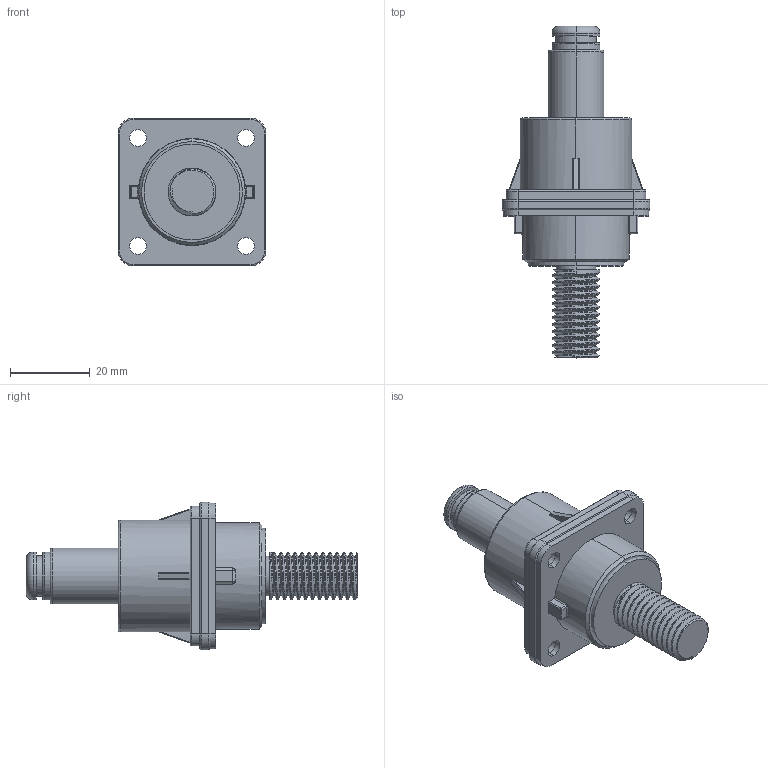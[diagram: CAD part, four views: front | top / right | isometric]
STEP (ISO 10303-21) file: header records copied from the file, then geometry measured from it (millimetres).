
FILE_DESCRIPTION (( 'STEP AP214' ), '1' );
FILE_NAME ('14.0 Feed Thru Pin to Thrread.STEP', '2017-02-14T03:08:00', ( '' ), ( '' ), 'SwSTEP 2.0', 'SolidWorks 2014', '' );
FILE_SCHEMA (( 'AUTOMOTIVE_DESIGN' ));
Length unit declared in the file: millimetre
Products named in the file (4): Overmold Pin To Thread #14.0; 1P1000210; RL9140-10X-F1 M12; 14.0 Feed Thru Pin to Thrread
Assembly tree (3 placements, depth 2):
  14.0 Feed Thru Pin to Thrread
    RL9140-10X-F1 M12
    Overmold Pin To Thread #14.0
    1P1000210
Bounding box: 37 x 83 x 37 mm (x, y, z)
Volume: 30040.2 mm3; surface area: 15210.2 mm2
Topology: 3 solids, 3 shells, 421 faces, 1055 edges, 632 vertices
Faces by surface type: cylinder 221, plane 99, torus 53, sphere 38, bspline 6, cone 4
Entity records: 14375 total; most frequent: CARTESIAN_POINT 4461, DIRECTION 2144, ORIENTED_EDGE 2046, EDGE_CURVE 1023, AXIS2_PLACEMENT_3D 849, VERTEX_POINT 620, EDGE_LOOP 451, VECTOR 446
